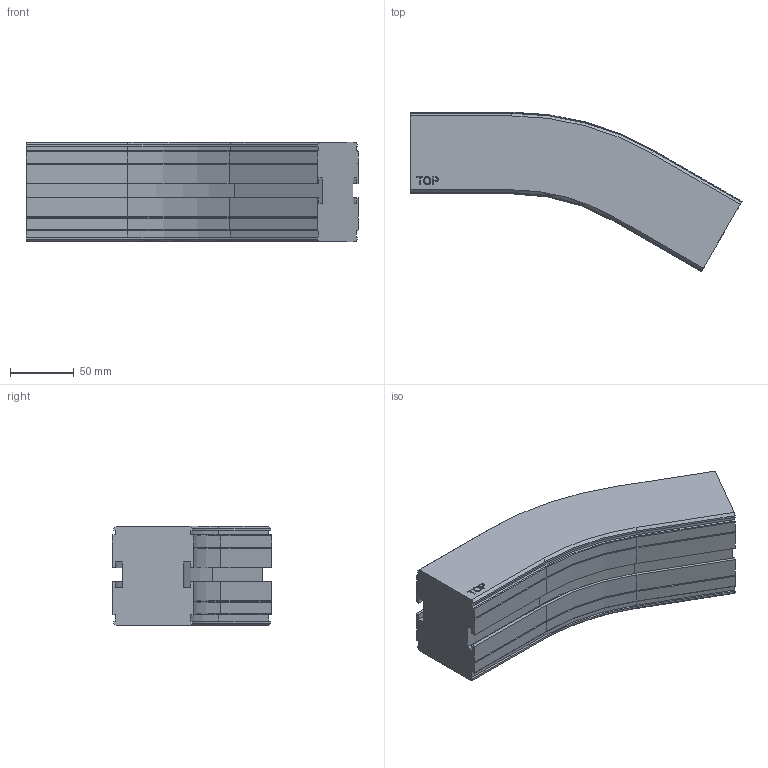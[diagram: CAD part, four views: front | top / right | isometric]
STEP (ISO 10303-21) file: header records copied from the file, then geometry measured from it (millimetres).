
FILE_DESCRIPTION((''),'2;1');
FILE_NAME('C:\Vault Klient\Projekt\Koncept konstruktion\Serie 620 Balk\620-5140.stp','2009-11-26T14:45:48',('Mathias'),(''),'Autodesk Inventor 2010','Autodesk Inventor 2010','');
FILE_SCHEMA(('AUTOMOTIVE_DESIGN { 1 0 10303 214 1 1 1 1 }'));
Length unit declared in the file: millimetre
Products named in the file (1): 620-5140
Bounding box: 260.78 x 125.3 x 78 mm (x, y, z)
Volume: 1209144.5 mm3; surface area: 103045.2 mm2
Topology: 1 solids, 1 shells, 169 faces, 446 edges, 284 vertices
Faces by surface type: plane 109, cylinder 30, bspline 14, cone 12, torus 4
Entity records: 5295 total; most frequent: CARTESIAN_POINT 1094, ORIENTED_EDGE 892, DIRECTION 802, EDGE_CURVE 446, VECTOR 346, LINE 346, VERTEX_POINT 284, AXIS2_PLACEMENT_3D 228
